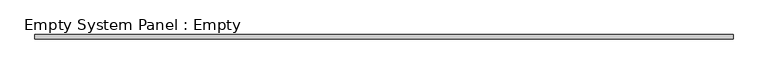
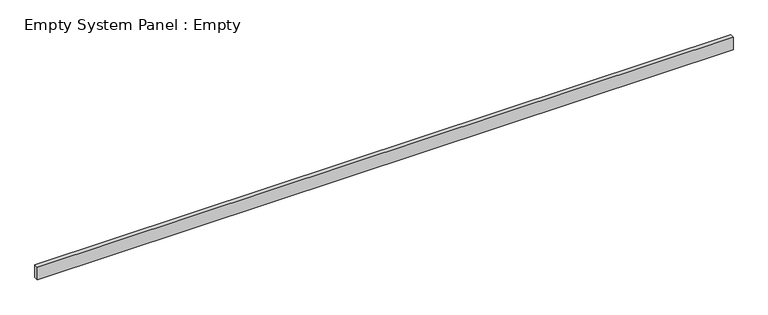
"""IFC4 building model written with IfcOpenShell, lengths in millimetres: plate geometry, Empty System Panel : Empty."""

from ifc_helpers import new_model, si_unit, origin, origin_with_axes, place, context, project, spatial, polyline, outline, extrude, source, transform, mapped, element, save


def empty_system_panel_empty_867e5877(model_context):
    return source(origin(), model_context, "Body", "SweptSolid", [
        extrude(outline(polyline([(8225.0, -50.0), (-8225.0, -50.0), (-8225.0, 50.0), (8225.0, 50.0), (8225.0, -50.0)])), origin_with_axes(), (0.0, 0.0, 1.0), 310.0),
    ])


if __name__ == "__main__":
    model = new_model("IFC4")
    model_context = context("Model", 3, world=origin())
    ifc_project = project(units=[si_unit("LENGTHUNIT", "METRE", prefix="MILLI")], contexts=[model_context])
    site = spatial("IfcSite", under=ifc_project)
    building = spatial("IfcBuilding", under=site)
    placement = place(None, origin())
    empty_system_panel_empty_shape = empty_system_panel_empty_867e5877(model_context)
    element("IfcPlate", 1, ObjectType="Empty System Panel : Empty", at=placement, inside=building, context=model_context, shape_type="MappedRepresentation", body=[
        mapped(empty_system_panel_empty_shape, transform((0.0, 0.0, 0.0), x_axis=(1.0, 0.0, 0.0), y_axis=(0.0, 1.0, 0.0), z_axis=(0.0, 0.0, 1.0))),
    ])
    save(model, "model.ifc")
